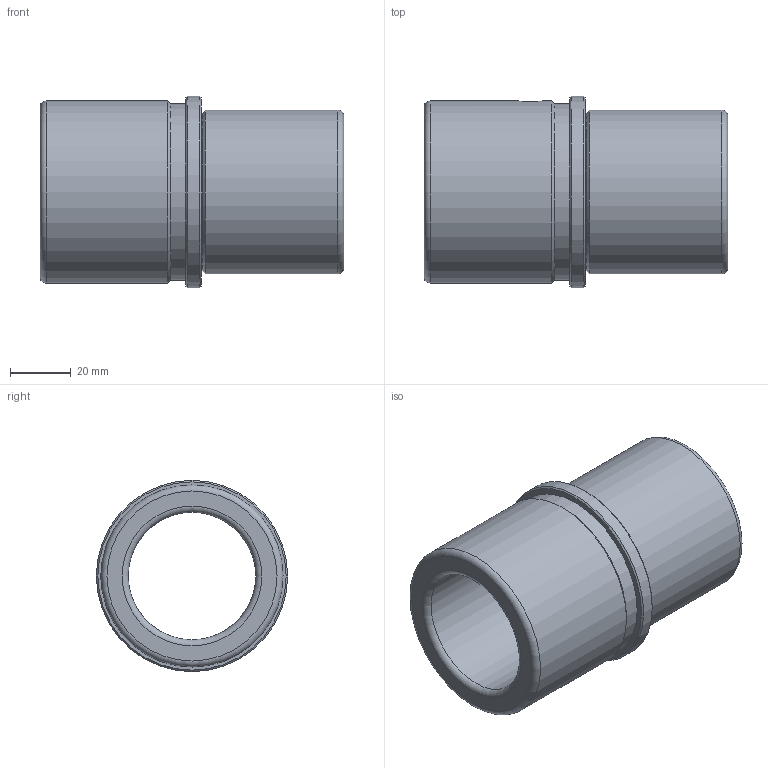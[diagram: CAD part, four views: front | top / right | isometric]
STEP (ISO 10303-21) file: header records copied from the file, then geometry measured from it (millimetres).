
FILE_DESCRIPTION( ( 'STEP AP214' ), '1' );
FILE_NAME( 'p:/temp/worker_27/temp/exporttempdir_4504_184_etCMR/format_0/WZ - 4051 42 x 100.stp', '2020-12-04T19:42:38', ( 'License CC BY-ND 4.0' ), ( 'CADENAS' ), ' ', 'PARTsolutions', ' ' );
FILE_SCHEMA( ( 'AUTOMOTIVE_DESIGN { 1 0 10303 214 1 1 1 1 }' ) );
Length unit declared in the file: millimetre
Products named in the file (1): _WZ - 4051 42 x 100
Bounding box: 100 x 63 x 63 mm (x, y, z)
Volume: 117821.5 mm3; surface area: 34839.8 mm2
Topology: 1 solids, 1 shells, 21 faces, 38 edges, 22 vertices
Faces by surface type: cylinder 7, cone 5, plane 5, torus 4
Full cylindrical faces by diameter (mm): 8.376 x1, 42 x1, 52 x1, 54 x1, 58 x1, 60 x1, 63 x1
Entity records: 750 total; most frequent: CARTESIAN_POINT 196, DIRECTION 84, EDGE_LOOP 44, ORIENTED_EDGE 44, AXIS2_PLACEMENT_3D 42, FACE_OUTER_BOUND 32, EDGE_CURVE 22, VERTEX_POINT 22
